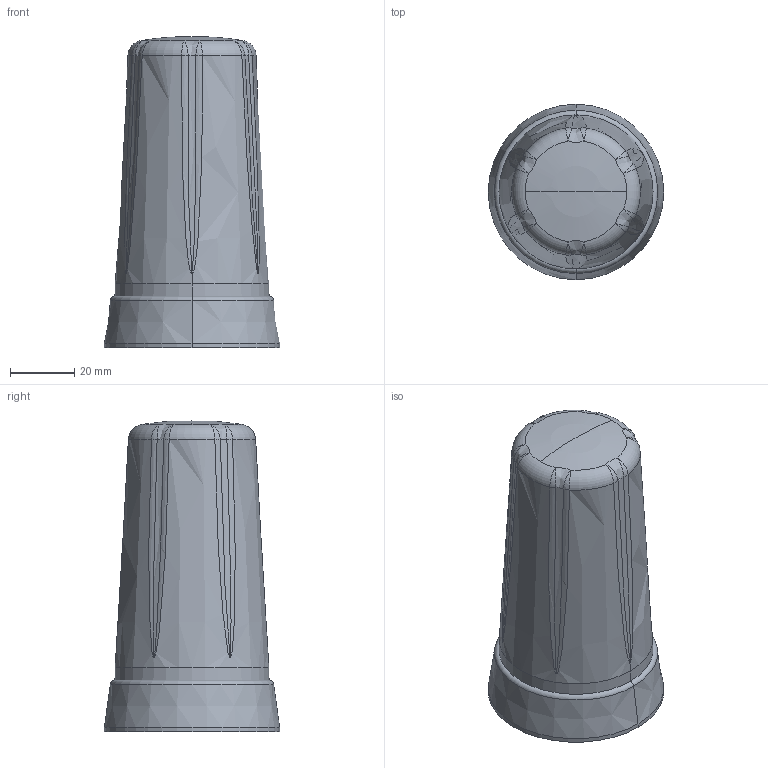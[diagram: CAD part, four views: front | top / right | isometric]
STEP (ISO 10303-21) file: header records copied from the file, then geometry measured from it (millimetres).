
FILE_DESCRIPTION (( 'STEP AP214' ), '1' );
FILE_NAME ('CMS-ANT-MAG2_EXT-2.0M.STEP', '2024-04-04T12:43:49', ( '' ), ( '' ), 'SwSTEP 2.0', 'SolidWorks 2022', '' );
FILE_SCHEMA (( 'AUTOMOTIVE_DESIGN' ));
Length unit declared in the file: millimetre
Products named in the file (1): CMS-ANT-MAG2_EXT-2.0M
Bounding box: 54.6 x 54.6 x 96.8 mm (x, y, z)
Volume: 155750.4 mm3; surface area: 17226.7 mm2
Topology: 1 solids, 1 shells, 49 faces, 112 edges, 51 vertices
Faces by surface type: bspline 18, sphere 14, cone 8, torus 8, plane 1
Entity records: 4728 total; most frequent: CARTESIAN_POINT 3773, DIRECTION 198, ORIENTED_EDGE 194, EDGE_CURVE 97, AXIS2_PLACEMENT_3D 95, CIRCLE 63, VERTEX_POINT 50, FACE_OUTER_BOUND 49
